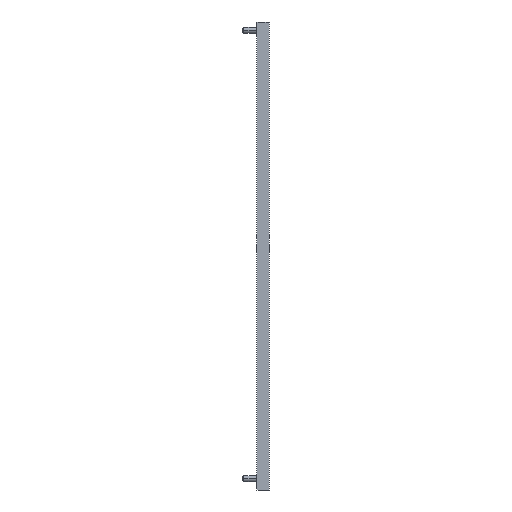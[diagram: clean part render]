
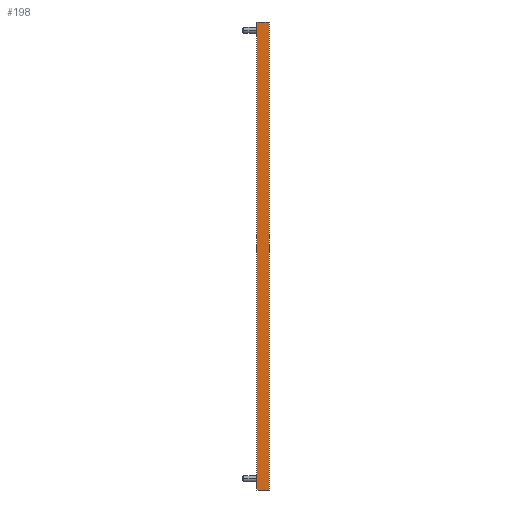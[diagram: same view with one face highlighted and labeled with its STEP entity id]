
A CAD part, left-side view. The second image highlights one B-rep face of the part: STEP entity #198.
In plain terms, the highlighted planar face has unit normal (-1, 0, 0).
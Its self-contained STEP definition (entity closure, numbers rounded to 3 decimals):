
#28 = ORIENTED_EDGE ( 'NONE', *, *, #225, .T. ) ;
#147 = ORIENTED_EDGE ( 'NONE', *, *, #302, .T. ) ;
#198 = ADVANCED_FACE ( 'NONE', ( #354 ), #2914, .T. ) ;
#225 = EDGE_CURVE ( 'NONE', #1003, #2181, #1661, .T. ) ;
#259 = CARTESIAN_POINT ( 'NONE',  ( -8., 12.5, 0. ) ) ;
#302 = EDGE_CURVE ( 'NONE', #1782, #2081, #415, .T. ) ;
#354 = FACE_OUTER_BOUND ( 'NONE', #1203, .T. ) ;
#415 = LINE ( 'NONE', #1132, #634 ) ;
#452 = CARTESIAN_POINT ( 'NONE',  ( -8., 0., 479. ) ) ;
#489 = VECTOR ( 'NONE', #1103, 1000. ) ;
#574 = VECTOR ( 'NONE', #757, 1000. ) ;
#598 = DIRECTION ( 'NONE',  ( 0., -1., 0. ) ) ;
#634 = VECTOR ( 'NONE', #2636, 1000. ) ;
#642 = VECTOR ( 'NONE', #598, 1000. ) ;
#727 = ORIENTED_EDGE ( 'NONE', *, *, #2182, .T. ) ;
#728 = LINE ( 'NONE', #2712, #2964 ) ;
#748 = CARTESIAN_POINT ( 'NONE',  ( -8., 9.3, 479. ) ) ;
#757 = DIRECTION ( 'NONE',  ( 0., -1., 0. ) ) ;
#814 = DIRECTION ( 'NONE',  ( 0., 0., 1. ) ) ;
#865 = DIRECTION ( 'NONE',  ( 0., 0., 1. ) ) ;
#866 = VERTEX_POINT ( 'NONE', #2744 ) ;
#998 = ORIENTED_EDGE ( 'NONE', *, *, #1938, .F. ) ;
#1003 = VERTEX_POINT ( 'NONE', #259 ) ;
#1004 = VECTOR ( 'NONE', #2614, 1000. ) ;
#1041 = LINE ( 'NONE', #3099, #1277 ) ;
#1047 = EDGE_CURVE ( 'NONE', #1716, #1782, #2098, .T. ) ;
#1103 = DIRECTION ( 'NONE',  ( 0., -1., 0. ) ) ;
#1120 = CARTESIAN_POINT ( 'NONE',  ( -8., 0., 479. ) ) ;
#1132 = CARTESIAN_POINT ( 'NONE',  ( -8., 0., 479. ) ) ;
#1203 = EDGE_LOOP ( 'NONE', ( #998, #28, #727, #3211, #3083, #147, #2278, #1888 ) ) ;
#1231 = VERTEX_POINT ( 'NONE', #1913 ) ;
#1277 = VECTOR ( 'NONE', #814, 1000. ) ;
#1387 = CARTESIAN_POINT ( 'NONE',  ( -8., 9.3, 0. ) ) ;
#1409 = EDGE_CURVE ( 'NONE', #866, #1716, #728, .T. ) ;
#1415 = CARTESIAN_POINT ( 'NONE',  ( -8., 0., 479. ) ) ;
#1452 = VERTEX_POINT ( 'NONE', #748 ) ;
#1657 = LINE ( 'NONE', #452, #2335 ) ;
#1661 = LINE ( 'NONE', #3196, #489 ) ;
#1716 = VERTEX_POINT ( 'NONE', #2660 ) ;
#1719 = LINE ( 'NONE', #3026, #574 ) ;
#1782 = VERTEX_POINT ( 'NONE', #1415 ) ;
#1809 = EDGE_CURVE ( 'NONE', #1231, #1452, #1719, .T. ) ;
#1870 = CARTESIAN_POINT ( 'NONE',  ( -8., 3.2, 479. ) ) ;
#1888 = ORIENTED_EDGE ( 'NONE', *, *, #1809, .F. ) ;
#1913 = CARTESIAN_POINT ( 'NONE',  ( -8., 12.5, 479. ) ) ;
#1915 = DIRECTION ( 'NONE',  ( -1., 0., 0. ) ) ;
#1938 = EDGE_CURVE ( 'NONE', #1003, #1231, #1041, .T. ) ;
#1977 = DIRECTION ( 'NONE',  ( 0., -1., 0. ) ) ;
#2081 = VERTEX_POINT ( 'NONE', #1870 ) ;
#2098 = LINE ( 'NONE', #3157, #1004 ) ;
#2181 = VERTEX_POINT ( 'NONE', #1387 ) ;
#2182 = EDGE_CURVE ( 'NONE', #2181, #866, #2396, .T. ) ;
#2209 = DIRECTION ( 'NONE',  ( 0., 1., 0. ) ) ;
#2278 = ORIENTED_EDGE ( 'NONE', *, *, #2547, .T. ) ;
#2335 = VECTOR ( 'NONE', #2209, 1000. ) ;
#2396 = LINE ( 'NONE', #2589, #642 ) ;
#2547 = EDGE_CURVE ( 'NONE', #2081, #1452, #1657, .T. ) ;
#2589 = CARTESIAN_POINT ( 'NONE',  ( -8., 0., 0. ) ) ;
#2614 = DIRECTION ( 'NONE',  ( 0., 0., 1. ) ) ;
#2626 = AXIS2_PLACEMENT_3D ( 'NONE', #1120, #1915, #865 ) ;
#2636 = DIRECTION ( 'NONE',  ( 0., 1., 0. ) ) ;
#2660 = CARTESIAN_POINT ( 'NONE',  ( -8., 0., 0. ) ) ;
#2712 = CARTESIAN_POINT ( 'NONE',  ( -8., 0., 0. ) ) ;
#2744 = CARTESIAN_POINT ( 'NONE',  ( -8., 3.2, 0. ) ) ;
#2914 = PLANE ( 'NONE',  #2626 ) ;
#2964 = VECTOR ( 'NONE', #1977, 1000. ) ;
#3026 = CARTESIAN_POINT ( 'NONE',  ( -8., 12.5, 479. ) ) ;
#3083 = ORIENTED_EDGE ( 'NONE', *, *, #1047, .T. ) ;
#3099 = CARTESIAN_POINT ( 'NONE',  ( -8., 12.5, 479. ) ) ;
#3157 = CARTESIAN_POINT ( 'NONE',  ( -8., 0., 479. ) ) ;
#3196 = CARTESIAN_POINT ( 'NONE',  ( -8., 0., 0. ) ) ;
#3211 = ORIENTED_EDGE ( 'NONE', *, *, #1409, .T. ) ;
